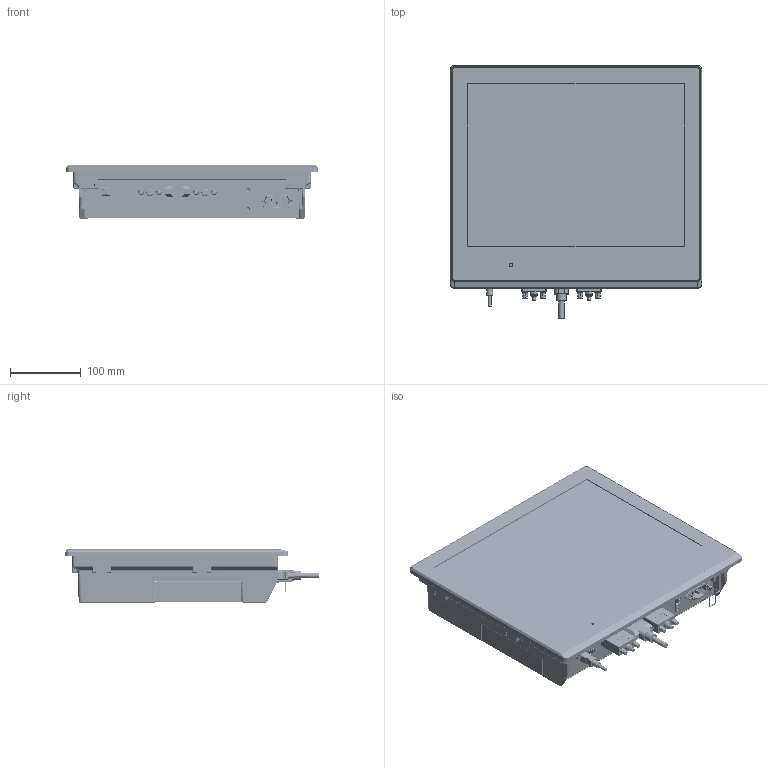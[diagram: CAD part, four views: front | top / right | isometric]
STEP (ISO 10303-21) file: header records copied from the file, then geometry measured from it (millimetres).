
FILE_DESCRIPTION((''),'2;1');
FILE_NAME('00_MD-215_SYSTEM-ASSEMBLY','2016-11-09T',('Justin_Huang'),(''),'PRO/ENGINEER BY PARAMETRIC TECHNOLOGY CORPORATION, 2013230','PRO/ENGINEER BY PARAMETRIC TECHNOLOGY CORPORATION, 2013230','');
FILE_SCHEMA(('AUTOMOTIVE_DESIGN { 1 0 10303 214 1 1 1 1 }'));
Products named in the file (1): 00_MD-215_SYSTEM-ASSEMBLY
Bounding box: 355.98 x 358.05 x 75 mm (x, y, z)
Surface area: 953509.8 mm2 (no closed solid volume)
Topology: 0 solids, 49 shells, 6431 faces, 15644 edges, 9613 vertices
Faces by surface type: plane 3348, cylinder 1858, bspline 622, torus 307, cone 189, sphere 106, revolution 1
Entity records: 256927 total; most frequent: CARTESIAN_POINT 70630, ORIENTED_EDGE 31022, DIRECTION 29947, EDGE_CURVE 15529, PRESENTATION_STYLE_ASSIGNMENT 12625, STYLED_ITEM 12596, CURVE_STYLE 12563, AXIS2_PLACEMENT_3D 10173
